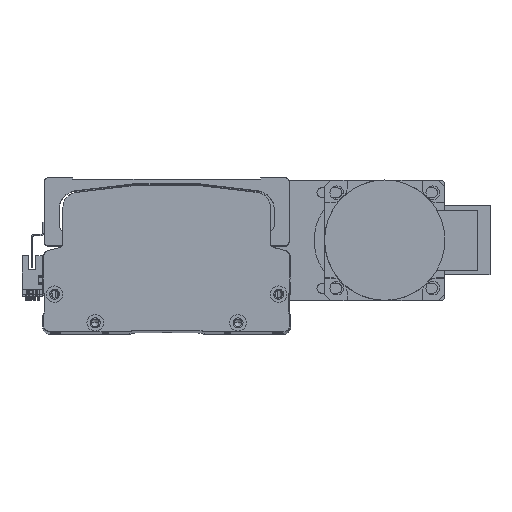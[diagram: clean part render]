
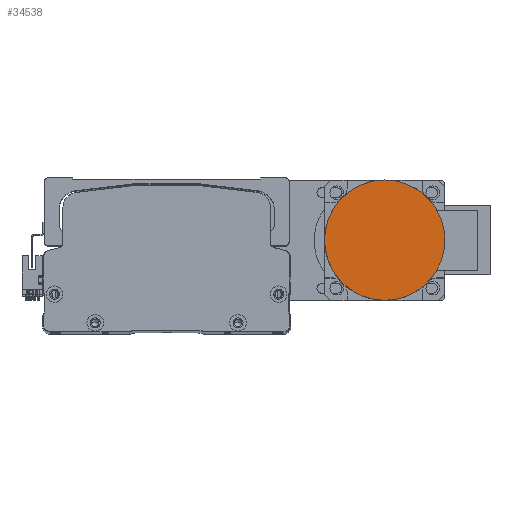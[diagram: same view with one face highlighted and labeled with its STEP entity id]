
A CAD part, top view. The second image highlights one B-rep face of the part: STEP entity #34538.
In plain terms, the highlighted planar face has unit normal (0, 0, 1) as drawn and (0, -1, 0) by its records, which use the part's own axes.
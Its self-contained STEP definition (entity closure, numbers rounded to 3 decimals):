
#8844 = DIRECTION ( 'NONE',  ( 0., -1., 0. ) ) ;
#19715 = VERTEX_POINT ( 'NONE', #29594 ) ;
#20131 = DIRECTION ( 'NONE',  ( 0., -1., 0. ) ) ;
#20252 = CIRCLE ( 'NONE', #47160, 40. ) ;
#25026 = ORIENTED_EDGE ( 'NONE', *, *, #39683, .T. ) ;
#27282 = CARTESIAN_POINT ( 'NONE',  ( 0., -27., -40. ) ) ;
#29594 = CARTESIAN_POINT ( 'NONE',  ( 0., -27., 40. ) ) ;
#29839 = DIRECTION ( 'NONE',  ( 0., 0., 1. ) ) ;
#30859 = VERTEX_POINT ( 'NONE', #27282 ) ;
#34411 = PLANE ( 'NONE',  #39899 ) ;
#34538 = ADVANCED_FACE ( 'NONE', ( #34960 ), #34411, .F. ) ;
#34960 = FACE_OUTER_BOUND ( 'NONE', #46214, .T. ) ;
#35829 = AXIS2_PLACEMENT_3D ( 'NONE', #48414, #20131, #53164 ) ;
#37202 = CARTESIAN_POINT ( 'NONE',  ( 0., -27., 0. ) ) ;
#39683 = EDGE_CURVE ( 'NONE', #30859, #19715, #46946, .T. ) ;
#39899 = AXIS2_PLACEMENT_3D ( 'NONE', #53366, #58122, #29839 ) ;
#41924 = DIRECTION ( 'NONE',  ( 0., 0., -1. ) ) ;
#43876 = ORIENTED_EDGE ( 'NONE', *, *, #54857, .T. ) ;
#46214 = EDGE_LOOP ( 'NONE', ( #25026, #43876 ) ) ;
#46946 = CIRCLE ( 'NONE', #35829, 40. ) ;
#47160 = AXIS2_PLACEMENT_3D ( 'NONE', #37202, #8844, #41924 ) ;
#48414 = CARTESIAN_POINT ( 'NONE',  ( 0., -27., 0. ) ) ;
#53164 = DIRECTION ( 'NONE',  ( 0., 0., -1. ) ) ;
#53366 = CARTESIAN_POINT ( 'NONE',  ( 0., -27., 0. ) ) ;
#54857 = EDGE_CURVE ( 'NONE', #19715, #30859, #20252, .T. ) ;
#58122 = DIRECTION ( 'NONE',  ( 0., 1., 0. ) ) ;
